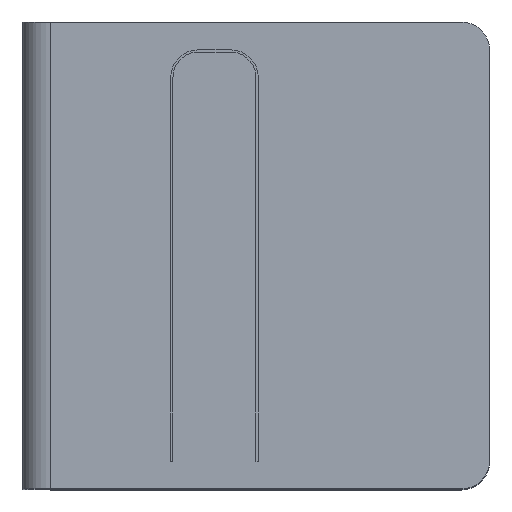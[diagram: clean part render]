
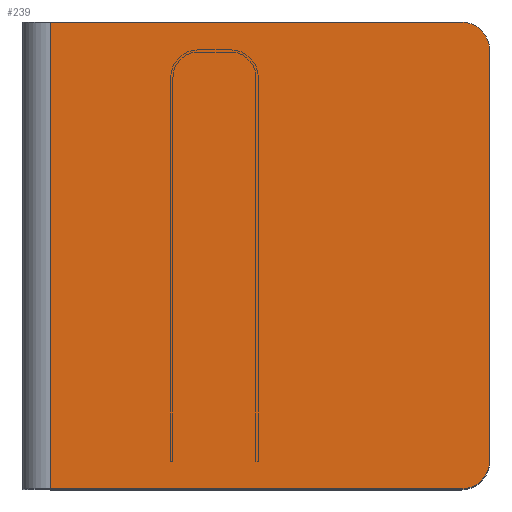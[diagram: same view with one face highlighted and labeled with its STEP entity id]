
A CAD part, top view. The second image highlights one B-rep face of the part: STEP entity #239.
In plain terms, the highlighted planar face has unit normal (0, 0, 1).
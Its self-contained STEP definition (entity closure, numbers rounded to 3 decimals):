
#11 = ORIENTED_EDGE ( 'NONE', *, *, #876, .T. ) ;
#28 = DIRECTION ( 'NONE',  ( 0., 0., 1. ) ) ;
#30 = LINE ( 'NONE', #483, #558 ) ;
#36 = CARTESIAN_POINT ( 'NONE',  ( 424., 25., 595. ) ) ;
#40 = VECTOR ( 'NONE', #116, 1000. ) ;
#102 = CARTESIAN_POINT ( 'NONE',  ( 29., 420., 595. ) ) ;
#116 = DIRECTION ( 'NONE',  ( 0., -1., 0. ) ) ;
#131 = EDGE_CURVE ( 'NONE', #584, #443, #1111, .T. ) ;
#174 = CARTESIAN_POINT ( 'NONE',  ( 29., 0., 595. ) ) ;
#186 = LINE ( 'NONE', #640, #323 ) ;
#228 = EDGE_CURVE ( 'NONE', #486, #358, #643, .T. ) ;
#239 = ADVANCED_FACE ( 'NONE', ( #1011 ), #819, .F. ) ;
#250 = VERTEX_POINT ( 'NONE', #36 ) ;
#274 = AXIS2_PLACEMENT_3D ( 'NONE', #429, #313, #1205 ) ;
#289 = LINE ( 'NONE', #428, #1332 ) ;
#313 = DIRECTION ( 'NONE',  ( 0., 0., 1. ) ) ;
#323 = VECTOR ( 'NONE', #1087, 1000. ) ;
#331 = ORIENTED_EDGE ( 'NONE', *, *, #753, .F. ) ;
#358 = VERTEX_POINT ( 'NONE', #674 ) ;
#376 = DIRECTION ( 'NONE',  ( -1., 0., 0. ) ) ;
#428 = CARTESIAN_POINT ( 'NONE',  ( 424., 420., 595. ) ) ;
#429 = CARTESIAN_POINT ( 'NONE',  ( 399., 25., 595. ) ) ;
#432 = ORIENTED_EDGE ( 'NONE', *, *, #228, .T. ) ;
#443 = VERTEX_POINT ( 'NONE', #174 ) ;
#458 = CARTESIAN_POINT ( 'NONE',  ( 29., 420., 595. ) ) ;
#475 = EDGE_CURVE ( 'NONE', #486, #250, #289, .T. ) ;
#483 = CARTESIAN_POINT ( 'NONE',  ( 29., 420., 595. ) ) ;
#486 = VERTEX_POINT ( 'NONE', #870 ) ;
#553 = AXIS2_PLACEMENT_3D ( 'NONE', #1038, #28, #376 ) ;
#558 = VECTOR ( 'NONE', #1304, 1000. ) ;
#559 = CIRCLE ( 'NONE', #274, 25. ) ;
#584 = VERTEX_POINT ( 'NONE', #458 ) ;
#640 = CARTESIAN_POINT ( 'NONE',  ( 29., 0., 595. ) ) ;
#643 = CIRCLE ( 'NONE', #553, 25. ) ;
#674 = CARTESIAN_POINT ( 'NONE',  ( 399., 420., 595. ) ) ;
#752 = ORIENTED_EDGE ( 'NONE', *, *, #131, .T. ) ;
#753 = EDGE_CURVE ( 'NONE', #584, #358, #30, .T. ) ;
#819 = PLANE ( 'NONE',  #1211 ) ;
#870 = CARTESIAN_POINT ( 'NONE',  ( 424., 395., 595. ) ) ;
#876 = EDGE_CURVE ( 'NONE', #443, #1107, #186, .T. ) ;
#1011 = FACE_OUTER_BOUND ( 'NONE', #1400, .T. ) ;
#1038 = CARTESIAN_POINT ( 'NONE',  ( 399., 395., 595. ) ) ;
#1071 = EDGE_CURVE ( 'NONE', #1107, #250, #559, .T. ) ;
#1087 = DIRECTION ( 'NONE',  ( 1., 0., 0. ) ) ;
#1107 = VERTEX_POINT ( 'NONE', #1412 ) ;
#1111 = LINE ( 'NONE', #102, #40 ) ;
#1150 = DIRECTION ( 'NONE',  ( 0., 0., -1. ) ) ;
#1180 = DIRECTION ( 'NONE',  ( 0., -1., 0. ) ) ;
#1205 = DIRECTION ( 'NONE',  ( -1., 0., 0. ) ) ;
#1211 = AXIS2_PLACEMENT_3D ( 'NONE', #1270, #1150, #1238 ) ;
#1238 = DIRECTION ( 'NONE',  ( -1., 0., 0. ) ) ;
#1270 = CARTESIAN_POINT ( 'NONE',  ( 29., 420., 595. ) ) ;
#1304 = DIRECTION ( 'NONE',  ( 1., 0., 0. ) ) ;
#1330 = ORIENTED_EDGE ( 'NONE', *, *, #1071, .T. ) ;
#1332 = VECTOR ( 'NONE', #1180, 1000. ) ;
#1385 = ORIENTED_EDGE ( 'NONE', *, *, #475, .F. ) ;
#1400 = EDGE_LOOP ( 'NONE', ( #1385, #432, #331, #752, #11, #1330 ) ) ;
#1412 = CARTESIAN_POINT ( 'NONE',  ( 399., 0., 595. ) ) ;
